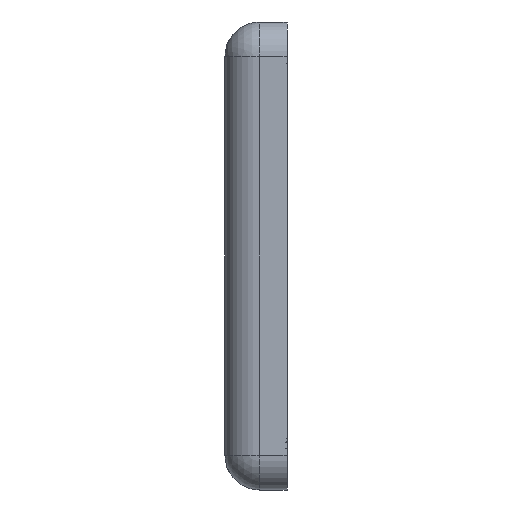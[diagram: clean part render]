
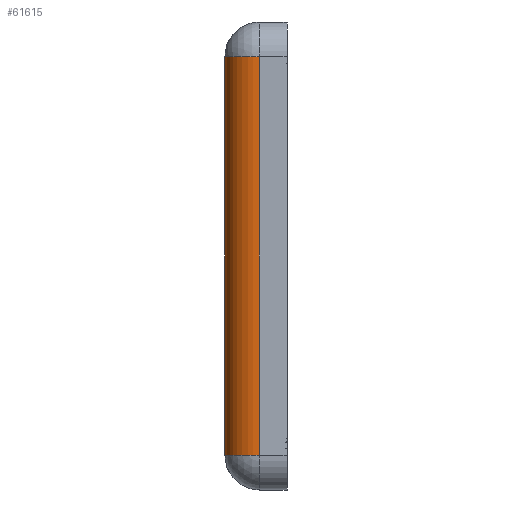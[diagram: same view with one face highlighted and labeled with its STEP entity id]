
A CAD part, left-side view. The second image highlights one B-rep face of the part: STEP entity #61615.
In plain terms, the highlighted cylindrical face has radius 30 mm (diameter 60 mm), a partial arc.
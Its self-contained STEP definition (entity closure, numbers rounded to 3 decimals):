
#1837 = LINE ( 'NONE', #98674, #52455 ) ;
#6252 = DIRECTION ( 'NONE',  ( 0., 0., -1. ) ) ;
#6838 = VERTEX_POINT ( 'NONE', #47447 ) ;
#8541 = EDGE_CURVE ( 'NONE', #124605, #6838, #32430, .T. ) ;
#10991 = DIRECTION ( 'NONE',  ( 0., 0., -1. ) ) ;
#14497 = CARTESIAN_POINT ( 'NONE',  ( -649.102, -21.847, -203.234 ) ) ;
#14967 = DIRECTION ( 'NONE',  ( 0., 0., -1. ) ) ;
#18699 = FACE_OUTER_BOUND ( 'NONE', #35927, .T. ) ;
#20927 = AXIS2_PLACEMENT_3D ( 'NONE', #14497, #14967, #122457 ) ;
#23157 = ORIENTED_EDGE ( 'NONE', *, *, #100399, .F. ) ;
#27439 = CARTESIAN_POINT ( 'NONE',  ( -679.102, -21.847, 173.234 ) ) ;
#28759 = EDGE_CURVE ( 'NONE', #90380, #113811, #1837, .T. ) ;
#29121 = AXIS2_PLACEMENT_3D ( 'NONE', #75659, #10991, #86495 ) ;
#32430 = LINE ( 'NONE', #49652, #61258 ) ;
#35927 = EDGE_LOOP ( 'NONE', ( #65721, #77704, #23157, #44445 ) ) ;
#44445 = ORIENTED_EDGE ( 'NONE', *, *, #8541, .F. ) ;
#44832 = DIRECTION ( 'NONE',  ( 0., 0., 1. ) ) ;
#47447 = CARTESIAN_POINT ( 'NONE',  ( -679.102, -21.847, -173.234 ) ) ;
#49652 = CARTESIAN_POINT ( 'NONE',  ( -679.102, -21.847, -203.234 ) ) ;
#49991 = DIRECTION ( 'NONE',  ( 0., 0., -1. ) ) ;
#52455 = VECTOR ( 'NONE', #44832, 1000. ) ;
#61258 = VECTOR ( 'NONE', #6252, 1000. ) ;
#61615 = ADVANCED_FACE ( 'NONE', ( #18699 ), #101417, .T. ) ;
#65613 = AXIS2_PLACEMENT_3D ( 'NONE', #114593, #49991, #125427 ) ;
#65721 = ORIENTED_EDGE ( 'NONE', *, *, #118424, .T. ) ;
#75659 = CARTESIAN_POINT ( 'NONE',  ( -649.102, -21.847, 173.234 ) ) ;
#77704 = ORIENTED_EDGE ( 'NONE', *, *, #28759, .F. ) ;
#86495 = DIRECTION ( 'NONE',  ( -1., 0., 0. ) ) ;
#90380 = VERTEX_POINT ( 'NONE', #91218 ) ;
#91218 = CARTESIAN_POINT ( 'NONE',  ( -649.102, 8.153, -173.234 ) ) ;
#91390 = CIRCLE ( 'NONE', #65613, 30. ) ;
#98674 = CARTESIAN_POINT ( 'NONE',  ( -649.102, 8.153, 0. ) ) ;
#100399 = EDGE_CURVE ( 'NONE', #6838, #90380, #91390, .T. ) ;
#101417 = CYLINDRICAL_SURFACE ( 'NONE', #20927, 30. ) ;
#113811 = VERTEX_POINT ( 'NONE', #131722 ) ;
#114593 = CARTESIAN_POINT ( 'NONE',  ( -649.102, -21.847, -173.234 ) ) ;
#118424 = EDGE_CURVE ( 'NONE', #124605, #113811, #120669, .T. ) ;
#120669 = CIRCLE ( 'NONE', #29121, 30. ) ;
#122457 = DIRECTION ( 'NONE',  ( -1., 0., 0. ) ) ;
#124605 = VERTEX_POINT ( 'NONE', #27439 ) ;
#125427 = DIRECTION ( 'NONE',  ( -1., 0., 0. ) ) ;
#131722 = CARTESIAN_POINT ( 'NONE',  ( -649.102, 8.153, 173.234 ) ) ;
